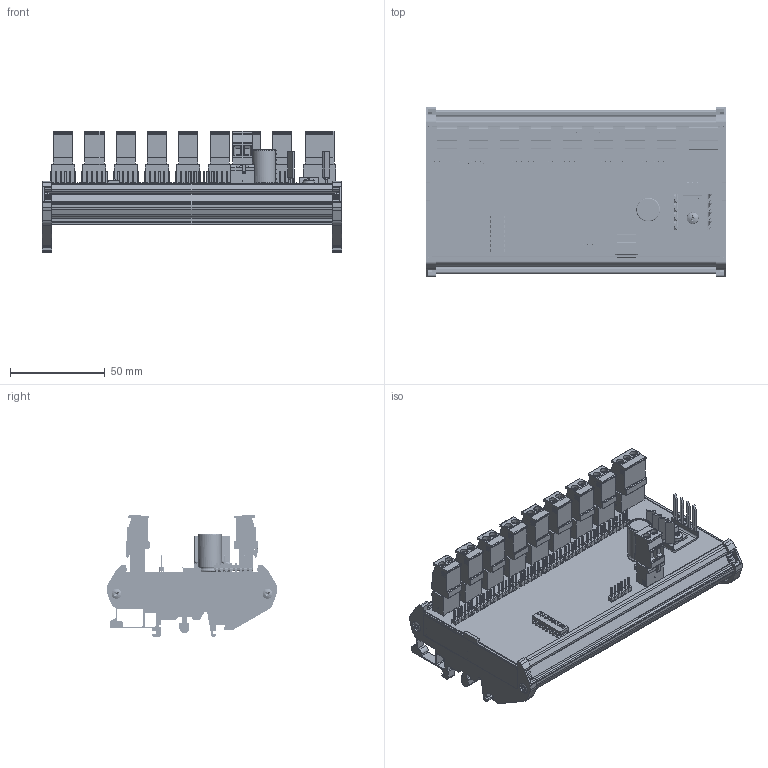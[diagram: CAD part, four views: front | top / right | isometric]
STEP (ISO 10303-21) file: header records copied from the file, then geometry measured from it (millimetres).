
FILE_DESCRIPTION(/* description */ (''),/* implementation_level */ '2;1');
FILE_NAME(/* name */ 'C:/Temp/STEP/AI-8_V200.step',/* time_stamp */ '2020-04-03T13:34:36+03:00',/* author */ (''),/* organization */ (''),/* preprocessor_version */ 'ST-DEVELOPER v18',/* originating_system */ 'Autodesk Translation Framework v8.12.0.6',/* authorisation */ '');
FILE_SCHEMA (('AUTOMOTIVE_DESIGN { 1 0 10303 214 3 1 1 }'));
Products named in the file (1): AI-8_V200
Bounding box: 158 x 89.6 x 64.02 mm (x, y, z)
Volume: 112278.4 mm3; surface area: 125343.4 mm2
Topology: 103 solids, 103 shells, 7171 faces, 19215 edges, 12628 vertices
Faces by surface type: plane 5615, cylinder 1356, sphere 71, bspline 69, cone 43, torus 17
Full cylindrical faces by diameter (mm): 0.434 x10, 0.457 x10, 0.6 x2, 0.8 x16, 1 x62, 1.4 x63, 1.71 x36, 2.404 x4, 2.8 x22, 3 x3, 3.1 x4, 3.2 x1, 3.78 x1, 3.783 x21, 4 x22, 5.15 x4, 6 x4, 10.5 x2
Entity records: 240117 total; most frequent: CARTESIAN_POINT 50101, ORIENTED_EDGE 38394, DIRECTION 36930, EDGE_CURVE 19197, LINE 15084, VECTOR 15084, VERTEX_POINT 12628, AXIS2_PLACEMENT_3D 10923
